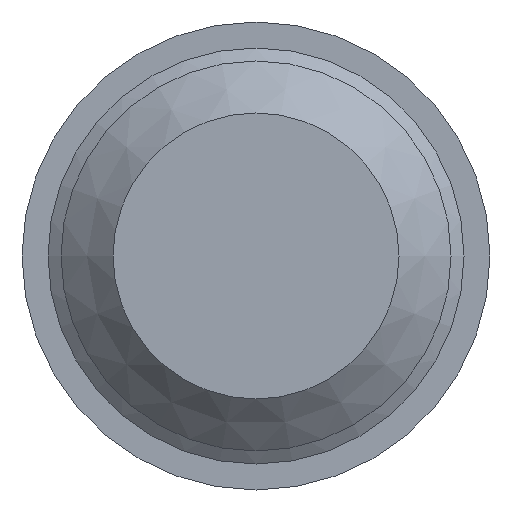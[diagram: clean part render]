
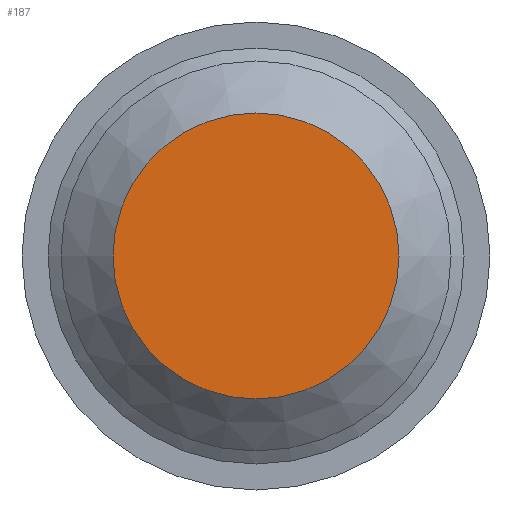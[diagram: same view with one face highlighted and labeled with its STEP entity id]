
A CAD part, left-side view. The second image highlights one B-rep face of the part: STEP entity #187.
In plain terms, the highlighted planar face has unit normal (-1, 0, 0).
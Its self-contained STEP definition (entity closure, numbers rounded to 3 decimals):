
#44=FACE_OUTER_BOUND('',#59,.T.);
#59=EDGE_LOOP('',(#133));
#78=CIRCLE('',#226,5.5);
#94=VERTEX_POINT('',#330);
#109=EDGE_CURVE('',#94,#94,#78,.T.);
#133=ORIENTED_EDGE('',*,*,#109,.F.);
#181=PLANE('',#225);
#187=ADVANCED_FACE('',(#44),#181,.T.);
#225=AXIS2_PLACEMENT_3D('',#329,#258,#259);
#226=AXIS2_PLACEMENT_3D('',#331,#260,#261);
#258=DIRECTION('center_axis',(-1.,0.,0.));
#259=DIRECTION('ref_axis',(0.,0.,1.));
#260=DIRECTION('center_axis',(1.,0.,0.));
#261=DIRECTION('ref_axis',(0.,1.,0.));
#329=CARTESIAN_POINT('Origin',(0.,2.75,0.));
#330=CARTESIAN_POINT('',(0.,-5.5,0.));
#331=CARTESIAN_POINT('Origin',(0.,0.,
0.));
